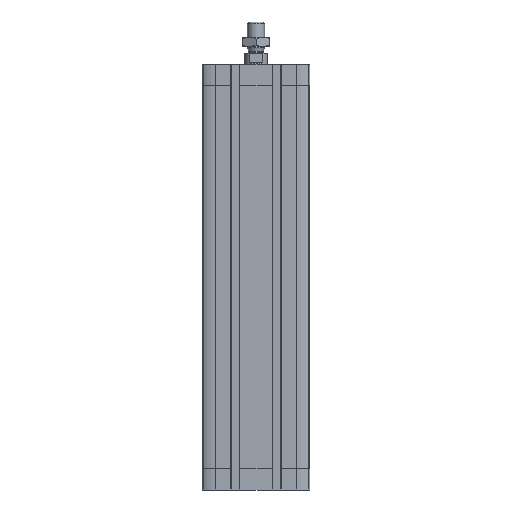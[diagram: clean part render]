
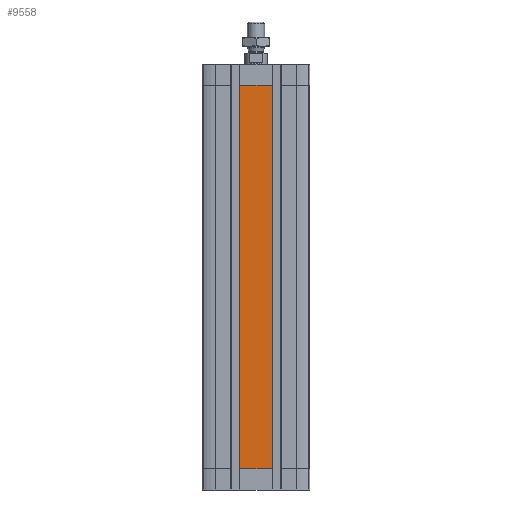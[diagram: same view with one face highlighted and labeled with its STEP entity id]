
A CAD part, front view. The second image highlights one B-rep face of the part: STEP entity #9558.
In plain terms, the highlighted planar face has unit normal (0, -1, 0).
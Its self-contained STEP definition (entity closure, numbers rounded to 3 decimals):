
#645 = FACE_OUTER_BOUND ( 'NONE', #3054, .T. ) ;
#766 = EDGE_CURVE ( 'NONE', #13216, #13055, #12295, .T. ) ;
#1418 = VECTOR ( 'NONE', #13232, 1000. ) ;
#2105 = LINE ( 'NONE', #15321, #15399 ) ;
#3054 = EDGE_LOOP ( 'NONE', ( #7199, #3729, #3213, #12997 ) ) ;
#3213 = ORIENTED_EDGE ( 'NONE', *, *, #766, .T. ) ;
#3729 = ORIENTED_EDGE ( 'NONE', *, *, #5626, .T. ) ;
#4782 = VERTEX_POINT ( 'NONE', #14207 ) ;
#5047 = VERTEX_POINT ( 'NONE', #7454 ) ;
#5626 = EDGE_CURVE ( 'NONE', #4782, #13216, #9825, .T. ) ;
#5652 = EDGE_CURVE ( 'NONE', #5047, #4782, #9701, .T. ) ;
#7199 = ORIENTED_EDGE ( 'NONE', *, *, #5652, .T. ) ;
#7454 = CARTESIAN_POINT ( 'NONE',  ( -11.4, -37.5, -284. ) ) ;
#7976 = DIRECTION ( 'NONE',  ( 0., 0., -1. ) ) ;
#9558 = ADVANCED_FACE ( 'NONE', ( #645 ), #10305, .T. ) ;
#9648 = VECTOR ( 'NONE', #13077, 1000. ) ;
#9701 = LINE ( 'NONE', #12995, #9648 ) ;
#9825 = LINE ( 'NONE', #13271, #1418 ) ;
#10215 = DIRECTION ( 'NONE',  ( 0., 0., -1. ) ) ;
#10233 = DIRECTION ( 'NONE',  ( 0., -1., 0. ) ) ;
#10236 = CARTESIAN_POINT ( 'NONE',  ( -11.4, -37.5, -284. ) ) ;
#10305 = PLANE ( 'NONE',  #16049 ) ;
#12094 = VECTOR ( 'NONE', #13914, 1000. ) ;
#12107 = CARTESIAN_POINT ( 'NONE',  ( -11.4, -37.5, -15. ) ) ;
#12295 = LINE ( 'NONE', #13335, #12094 ) ;
#12995 = CARTESIAN_POINT ( 'NONE',  ( -11.4, -37.5, -284. ) ) ;
#12997 = ORIENTED_EDGE ( 'NONE', *, *, #15353, .T. ) ;
#13055 = VERTEX_POINT ( 'NONE', #12107 ) ;
#13077 = DIRECTION ( 'NONE',  ( 1., 0., 0. ) ) ;
#13216 = VERTEX_POINT ( 'NONE', #14471 ) ;
#13232 = DIRECTION ( 'NONE',  ( 0., 0., 1. ) ) ;
#13271 = CARTESIAN_POINT ( 'NONE',  ( 11.4, -37.5, -284. ) ) ;
#13335 = CARTESIAN_POINT ( 'NONE',  ( 0., -37.5, -15. ) ) ;
#13914 = DIRECTION ( 'NONE',  ( -1., 0., 0. ) ) ;
#14207 = CARTESIAN_POINT ( 'NONE',  ( 11.4, -37.5, -284. ) ) ;
#14471 = CARTESIAN_POINT ( 'NONE',  ( 11.4, -37.5, -15. ) ) ;
#15321 = CARTESIAN_POINT ( 'NONE',  ( -11.4, -37.5, -284. ) ) ;
#15353 = EDGE_CURVE ( 'NONE', #13055, #5047, #2105, .T. ) ;
#15399 = VECTOR ( 'NONE', #7976, 1000. ) ;
#16049 = AXIS2_PLACEMENT_3D ( 'NONE', #10236, #10233, #10215 ) ;
